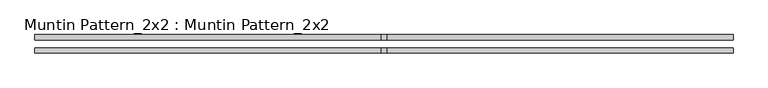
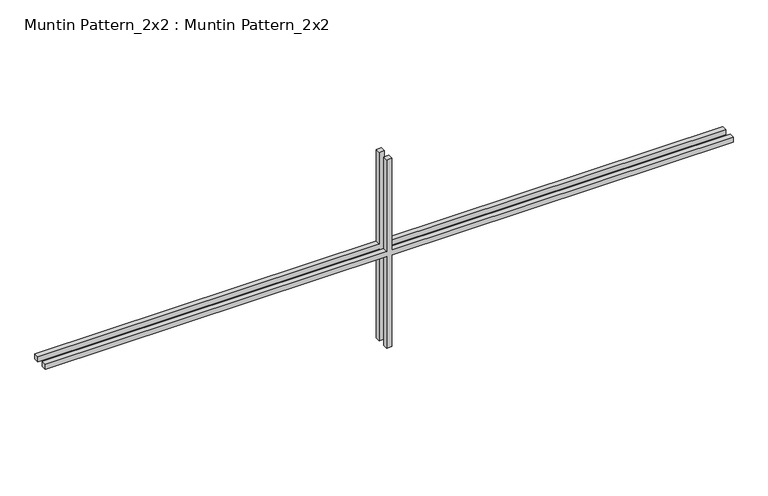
"""IFC4 building model written with IfcOpenShell, lengths in millimetres: proxy geometry, Muntin Pattern_2x2 : Muntin Pattern_2x2."""

from ifc_helpers import new_model, si_unit, frame, origin, place, context, project, spatial, polyline, outline, extrude, source, transform, mapped, element, save


def muntin_pattern_2x2_muntin_pattern_2x2_39947d6e(model_context):
    return source(origin(), model_context, "Body", "SweptSolid", [
        extrude(outline(polyline([(249.2375, -6.35), (249.2375, -838.2), (236.5375, -838.2), (236.5375, -6.35), (0.0, -6.35), (0.0, 6.35), (236.5375, 6.35), (236.5375, 838.2), (249.2375, 838.2), (249.2375, 6.35), (485.775, 6.35), (485.775, -6.35), (249.2375, -6.35)])), frame((0.0, -22.225, 0.0), z_axis=(0.0, 1.0, 0.0), x_axis=(0.0, 0.0, 1.0)), (0.0, 0.0, 1.0), 12.7),
        extrude(outline(polyline([(249.2375, -6.35), (249.2375, -838.2), (236.5375, -838.2), (236.5375, -6.35), (0.0, -6.35), (0.0, 6.35), (236.5375, 6.35), (236.5375, 838.2), (249.2375, 838.2), (249.2375, 6.35), (485.775, 6.35), (485.775, -6.35), (249.2375, -6.35)])), frame((0.0, 9.525, 0.0), z_axis=(0.0, 1.0, 0.0), x_axis=(0.0, 0.0, 1.0)), (0.0, 0.0, 1.0), 12.7),
    ])


if __name__ == "__main__":
    model = new_model("IFC4")
    model_context = context("Model", 3, world=origin())
    ifc_project = project(units=[si_unit("LENGTHUNIT", "METRE", prefix="MILLI")], contexts=[model_context])
    site = spatial("IfcSite", under=ifc_project)
    building = spatial("IfcBuilding", under=site)
    placement = place(None, origin())
    muntin_pattern_2x2_muntin_pattern_2x2_shape = muntin_pattern_2x2_muntin_pattern_2x2_39947d6e(model_context)
    element("IfcBuildingElementProxy", 1, Name="Muntin Pattern_2x2 : Muntin Pattern_2x2", ObjectType="Muntin Pattern_2x2 : Muntin Pattern_2x2", at=placement, inside=building, context=model_context, shape_type="MappedRepresentation", body=[
        mapped(muntin_pattern_2x2_muntin_pattern_2x2_shape, transform((0.0, 0.0, 0.0), x_axis=(1.0, 0.0, 0.0), y_axis=(0.0, 1.0, 0.0), z_axis=(0.0, 0.0, 1.0))),
    ])
    save(model, "model.ifc")
